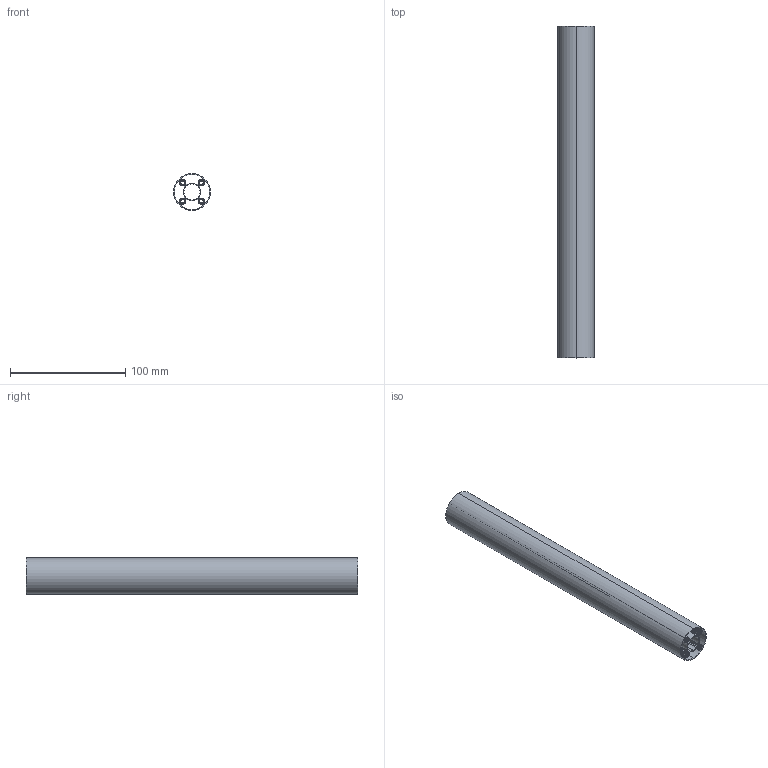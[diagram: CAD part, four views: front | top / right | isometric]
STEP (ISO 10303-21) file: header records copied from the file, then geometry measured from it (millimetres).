
FILE_DESCRIPTION (( 'STEP AP203' ), '1' );
FILE_NAME ('4103-0032-0288.STEP', '2022-09-13T20:47:03', ( '' ), ( '' ), 'SwSTEP 2.0', 'SolidWorks 2016', '' );
FILE_SCHEMA (( 'CONFIG_CONTROL_DESIGN' ));
Length unit declared in the file: millimetre
Products named in the file (1): 4103-0032-0288
Bounding box: 31.95 x 288 x 31.95 mm (x, y, z)
Volume: 48604.7 mm3; surface area: 114831.7 mm2
Topology: 1 solids, 1 shells, 781 faces, 2333 edges, 1554 vertices
Faces by surface type: cylinder 711, plane 34, cone 20, bspline 16
Entity records: 50002 total; most frequent: CARTESIAN_POINT 32717, ORIENTED_EDGE 4666, DIRECTION 2715, EDGE_CURVE 2333, VERTEX_POINT 1554, AXIS2_PLACEMENT_3D 960, EDGE_LOOP 799, VECTOR 795
